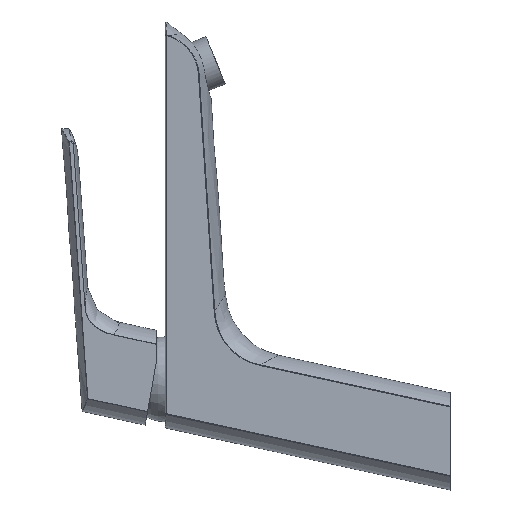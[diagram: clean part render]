
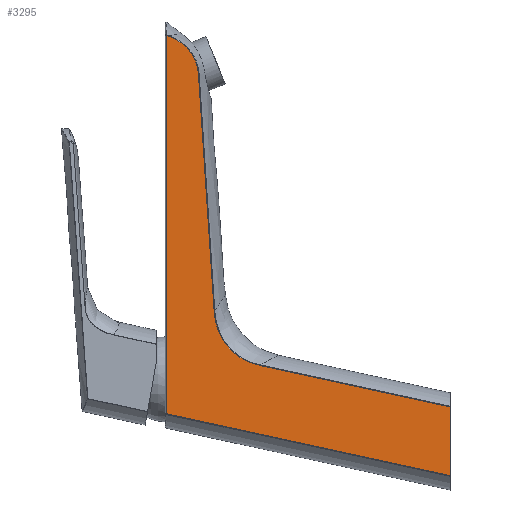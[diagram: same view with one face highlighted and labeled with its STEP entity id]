
A CAD part, left-side view. The second image highlights one B-rep face of the part: STEP entity #3295.
In plain terms, the highlighted planar face has unit normal (-1, 0, 0).
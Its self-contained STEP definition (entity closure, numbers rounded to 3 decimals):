
#39 = CARTESIAN_POINT ( 'NONE',  ( -17.775, 74.99, 17.879 ) ) ;
#51 = CARTESIAN_POINT ( 'NONE',  ( -17.775, 94.816, 130.403 ) ) ;
#61 = CARTESIAN_POINT ( 'NONE',  ( -17.775, 82.847, 24.107 ) ) ;
#73 = CARTESIAN_POINT ( 'NONE',  ( -17.775, 87.483, 36.749 ) ) ;
#110 = CARTESIAN_POINT ( 'NONE',  ( -17.775, 88.383, 50.397 ) ) ;
#137 = CARTESIAN_POINT ( 'NONE',  ( -17.775, 87.325, 34.361 ) ) ;
#256 = AXIS2_PLACEMENT_3D ( 'NONE', #1827, #579, #3603 ) ;
#266 = CARTESIAN_POINT ( 'NONE',  ( -17.775, -0.249, 1.142 ) ) ;
#286 = DIRECTION ( 'NONE',  ( 0., 0.977, 0.213 ) ) ;
#295 = CARTESIAN_POINT ( 'NONE',  ( -17.775, 0.027, -24.204 ) ) ;
#316 = LINE ( 'NONE', #266, #2497 ) ;
#371 = VERTEX_POINT ( 'NONE', #1366 ) ;
#380 = B_SPLINE_CURVE_WITH_KNOTS ( 'NONE', 3,
 ( #474, #1767, #3507, #3960, #5248, #918, #3942, #51, #874, #5269, #3018, #3529, #1360, #5637, #2683, #3036, #414, #3446, #1278, #1714 ),
 .UNSPECIFIED., .F., .F.,
 ( 4, 2, 2, 2, 2, 2, 2, 2, 2, 4 ),
 ( 0., 0.002, 0.004, 0.005, 0.009, 0.012, 0.014, 0.015, 0.016, 0.019 ),
 .UNSPECIFIED. ) ;
#402 = B_SPLINE_CURVE_WITH_KNOTS ( 'NONE', 3,
 ( #5278, #2205, #39, #3080, #3517, #927, #5256, #3949, #2669, #61, #5297, #4504, #2765, #1897, #3213, #4030, #137, #4070 ),
 .UNSPECIFIED., .F., .F.,
 ( 4, 2, 2, 2, 2, 2, 2, 2, 4 ),
 ( 0., 0.007, 0.009, 0.011, 0.014, 0.016, 0.018, 0.021, 0.028 ),
 .UNSPECIFIED. ) ;
#414 = CARTESIAN_POINT ( 'NONE',  ( -17.775, 101.597, 137.24 ) ) ;
#420 = EDGE_CURVE ( 'NONE', #3281, #614, #402, .T. ) ;
#468 = CARTESIAN_POINT ( 'NONE',  ( -17.775, 5.039, -23.111 ) ) ;
#474 = CARTESIAN_POINT ( 'NONE',  ( -17.775, 93.26, 124.363 ) ) ;
#579 = DIRECTION ( 'NONE',  ( 1., 0., 0. ) ) ;
#593 = VECTOR ( 'NONE', #5147, 1000. ) ;
#614 = VERTEX_POINT ( 'NONE', #4162 ) ;
#638 = CARTESIAN_POINT ( 'NONE',  ( -17.775, 91.208, 93.25 ) ) ;
#821 = VERTEX_POINT ( 'NONE', #829 ) ;
#829 = CARTESIAN_POINT ( 'NONE',  ( -17.775, 0.002, 1.196 ) ) ;
#850 = B_SPLINE_CURVE_WITH_KNOTS ( 'NONE', 3,
 ( #73, #110, #4045, #992 ),
 .UNSPECIFIED., .F., .F.,
 ( 4, 4 ),
 ( 0., 0.041 ),
 .UNSPECIFIED. ) ;
#874 = CARTESIAN_POINT ( 'NONE',  ( -17.775, 95.578, 131.757 ) ) ;
#913 = ORIENTED_EDGE ( 'NONE', *, *, #1078, .T. ) ;
#918 = CARTESIAN_POINT ( 'NONE',  ( -17.775, 93.992, 128.199 ) ) ;
#927 = CARTESIAN_POINT ( 'NONE',  ( -17.775, 79.05, 20.386 ) ) ;
#957 = CARTESIAN_POINT ( 'NONE',  ( -17.775, 104.221, 138.349 ) ) ;
#992 = CARTESIAN_POINT ( 'NONE',  ( -17.775, 90.182, 77.693 ) ) ;
#1009 = CARTESIAN_POINT ( 'NONE',  ( -17.775, 93.26, 124.363 ) ) ;
#1078 = EDGE_CURVE ( 'NONE', #5528, #371, #4435, .T. ) ;
#1129 = LINE ( 'NONE', #468, #2970 ) ;
#1256 = CARTESIAN_POINT ( 'NONE',  ( -17.775, -0.019, 22.885 ) ) ;
#1263 = VECTOR ( 'NONE', #1289, 1000. ) ;
#1278 = CARTESIAN_POINT ( 'NONE',  ( -17.775, 103.376, 138.067 ) ) ;
#1289 = DIRECTION ( 'NONE',  ( 0., 0.001, -1. ) ) ;
#1360 = CARTESIAN_POINT ( 'NONE',  ( -17.775, 99.296, 135.77 ) ) ;
#1366 = CARTESIAN_POINT ( 'NONE',  ( -17.775, 93.26, 124.363 ) ) ;
#1404 = LINE ( 'NONE', #4265, #593 ) ;
#1503 = CARTESIAN_POINT ( 'NONE',  ( -17.775, 90.182, 77.693 ) ) ;
#1714 = CARTESIAN_POINT ( 'NONE',  ( -17.775, 104.124, 138.313 ) ) ;
#1767 = CARTESIAN_POINT ( 'NONE',  ( -17.775, 93.312, 125.149 ) ) ;
#1807 = CARTESIAN_POINT ( 'NONE',  ( -17.775, 70.432, 16.553 ) ) ;
#1827 = CARTESIAN_POINT ( 'NONE',  ( -17.775, 0., 0. ) ) ;
#1860 = LINE ( 'NONE', #1256, #1263 ) ;
#1897 = CARTESIAN_POINT ( 'NONE',  ( -17.775, 85.086, 27.602 ) ) ;
#2205 = CARTESIAN_POINT ( 'NONE',  ( -17.775, 72.77, 17.062 ) ) ;
#2346 = ORIENTED_EDGE ( 'NONE', *, *, #4818, .T. ) ;
#2497 = VECTOR ( 'NONE', #286, 1000. ) ;
#2581 = ORIENTED_EDGE ( 'NONE', *, *, #3990, .T. ) ;
#2669 = CARTESIAN_POINT ( 'NONE',  ( -17.775, 81.702, 22.728 ) ) ;
#2683 = CARTESIAN_POINT ( 'NONE',  ( -17.775, 100.579, 136.65 ) ) ;
#2692 = CARTESIAN_POINT ( 'NONE',  ( -17.775, 105.141, 138.683 ) ) ;
#2707 = CARTESIAN_POINT ( 'NONE',  ( -17.775, 104.188, 138.337 ) ) ;
#2765 = CARTESIAN_POINT ( 'NONE',  ( -17.775, 84.202, 26.063 ) ) ;
#2955 = CARTESIAN_POINT ( 'NONE',  ( -17.775, 104.124, 138.313 ) ) ;
#2958 = EDGE_CURVE ( 'NONE', #821, #3281, #316, .T. ) ;
#2970 = VECTOR ( 'NONE', #3104, 1000. ) ;
#3016 = VERTEX_POINT ( 'NONE', #295 ) ;
#3018 = CARTESIAN_POINT ( 'NONE',  ( -17.775, 97.562, 134.206 ) ) ;
#3036 = CARTESIAN_POINT ( 'NONE',  ( -17.775, 101.251, 137.051 ) ) ;
#3080 = CARTESIAN_POINT ( 'NONE',  ( -17.775, 77.578, 19.382 ) ) ;
#3104 = DIRECTION ( 'NONE',  ( 0., -0.977, -0.213 ) ) ;
#3125 = CARTESIAN_POINT ( 'NONE',  ( -17.775, 105.253, -1.261 ) ) ;
#3184 = ORIENTED_EDGE ( 'NONE', *, *, #2958, .T. ) ;
#3213 = CARTESIAN_POINT ( 'NONE',  ( -17.775, 85.59, 28.676 ) ) ;
#3281 = VERTEX_POINT ( 'NONE', #1807 ) ;
#3295 = ADVANCED_FACE ( 'NONE', ( #4724 ), #4458, .F. ) ;
#3299 = EDGE_CURVE ( 'NONE', #614, #5528, #850, .T. ) ;
#3446 = CARTESIAN_POINT ( 'NONE',  ( -17.775, 102.651, 137.768 ) ) ;
#3464 = ORIENTED_EDGE ( 'NONE', *, *, #3299, .T. ) ;
#3507 = CARTESIAN_POINT ( 'NONE',  ( -17.775, 93.421, 125.924 ) ) ;
#3517 = CARTESIAN_POINT ( 'NONE',  ( -17.775, 78.081, 19.704 ) ) ;
#3529 = CARTESIAN_POINT ( 'NONE',  ( -17.775, 98.694, 135.279 ) ) ;
#3550 = CARTESIAN_POINT ( 'NONE',  ( -17.775, 104.684, 138.518 ) ) ;
#3585 = CARTESIAN_POINT ( 'NONE',  ( -17.775, 104.916, 138.602 ) ) ;
#3600 = CARTESIAN_POINT ( 'NONE',  ( -17.775, 92.234, 108.806 ) ) ;
#3603 = DIRECTION ( 'NONE',  ( 0., 0., -1. ) ) ;
#3619 = CARTESIAN_POINT ( 'NONE',  ( -17.775, 90.182, 77.693 ) ) ;
#3692 = EDGE_LOOP ( 'NONE', ( #4503, #2346, #4619, #3184, #4820, #3464, #913, #5524, #2581 ) ) ;
#3924 = VERTEX_POINT ( 'NONE', #2955 ) ;
#3942 = CARTESIAN_POINT ( 'NONE',  ( -17.775, 94.119, 128.573 ) ) ;
#3949 = CARTESIAN_POINT ( 'NONE',  ( -17.775, 80.869, 21.889 ) ) ;
#3960 = CARTESIAN_POINT ( 'NONE',  ( -17.775, 93.671, 127.068 ) ) ;
#3988 = CARTESIAN_POINT ( 'NONE',  ( -17.775, 105.029, 138.643 ) ) ;
#3990 = EDGE_CURVE ( 'NONE', #3924, #5460, #5112, .T. ) ;
#4030 = CARTESIAN_POINT ( 'NONE',  ( -17.775, 86.853, 32.039 ) ) ;
#4045 = CARTESIAN_POINT ( 'NONE',  ( -17.775, 89.283, 64.045 ) ) ;
#4070 = CARTESIAN_POINT ( 'NONE',  ( -17.775, 87.483, 36.749 ) ) ;
#4162 = CARTESIAN_POINT ( 'NONE',  ( -17.775, 87.483, 36.749 ) ) ;
#4265 = CARTESIAN_POINT ( 'NONE',  ( -17.775, 105.253, 0. ) ) ;
#4375 = EDGE_CURVE ( 'NONE', #371, #3924, #380, .T. ) ;
#4405 = CARTESIAN_POINT ( 'NONE',  ( -17.775, 104.124, 138.313 ) ) ;
#4435 = B_SPLINE_CURVE_WITH_KNOTS ( 'NONE', 3,
 ( #3619, #638, #3600, #1009 ),
 .UNSPECIFIED., .F., .F.,
 ( 4, 4 ),
 ( 0., 0.047 ),
 .UNSPECIFIED. ) ;
#4442 = CARTESIAN_POINT ( 'NONE',  ( -17.775, 104.156, 138.325 ) ) ;
#4458 = PLANE ( 'NONE',  #256 ) ;
#4462 = CARTESIAN_POINT ( 'NONE',  ( -17.775, 105.253, 138.723 ) ) ;
#4503 = ORIENTED_EDGE ( 'NONE', *, *, #4639, .T. ) ;
#4504 = CARTESIAN_POINT ( 'NONE',  ( -17.775, 83.886, 25.562 ) ) ;
#4619 = ORIENTED_EDGE ( 'NONE', *, *, #4668, .F. ) ;
#4639 = EDGE_CURVE ( 'NONE', #5460, #4906, #1404, .T. ) ;
#4668 = EDGE_CURVE ( 'NONE', #821, #3016, #1860, .T. ) ;
#4724 = FACE_OUTER_BOUND ( 'NONE', #3692, .T. ) ;
#4818 = EDGE_CURVE ( 'NONE', #4906, #3016, #1129, .T. ) ;
#4820 = ORIENTED_EDGE ( 'NONE', *, *, #420, .T. ) ;
#4906 = VERTEX_POINT ( 'NONE', #3125 ) ;
#5112 = B_SPLINE_CURVE_WITH_KNOTS ( 'NONE', 3,
 ( #4405, #4442, #2707, #957, #5329, #3550, #3585, #3988, #2692, #4462 ),
 .UNSPECIFIED., .F., .F.,
 ( 4, 3, 3, 4 ),
 ( 0., 0., 0.001, 0.001 ),
 .UNSPECIFIED. ) ;
#5147 = DIRECTION ( 'NONE',  ( 0., 0., -1. ) ) ;
#5248 = CARTESIAN_POINT ( 'NONE',  ( -17.775, 93.768, 127.447 ) ) ;
#5256 = CARTESIAN_POINT ( 'NONE',  ( -17.775, 79.517, 20.747 ) ) ;
#5269 = CARTESIAN_POINT ( 'NONE',  ( -17.775, 97.029, 133.62 ) ) ;
#5278 = CARTESIAN_POINT ( 'NONE',  ( -17.775, 70.432, 16.553 ) ) ;
#5297 = CARTESIAN_POINT ( 'NONE',  ( -17.775, 83.209, 24.585 ) ) ;
#5329 = CARTESIAN_POINT ( 'NONE',  ( -17.775, 104.452, 138.434 ) ) ;
#5408 = CARTESIAN_POINT ( 'NONE',  ( -17.775, 105.253, 138.723 ) ) ;
#5460 = VERTEX_POINT ( 'NONE', #5408 ) ;
#5524 = ORIENTED_EDGE ( 'NONE', *, *, #4375, .T. ) ;
#5528 = VERTEX_POINT ( 'NONE', #1503 ) ;
#5637 = CARTESIAN_POINT ( 'NONE',  ( -17.775, 100.252, 136.438 ) ) ;
